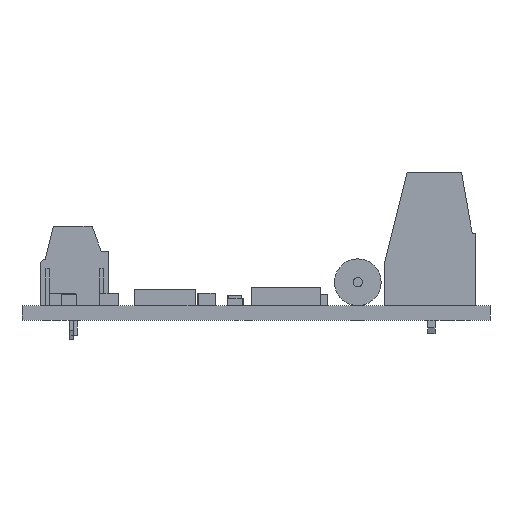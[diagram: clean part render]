
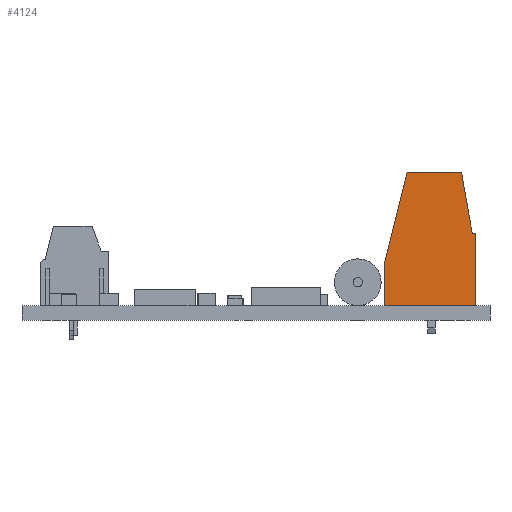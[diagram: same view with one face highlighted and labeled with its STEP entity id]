
A CAD part, front view. The second image highlights one B-rep face of the part: STEP entity #4124.
In plain terms, the highlighted planar face has unit normal (0, -1, 0) as drawn and (-1, 0, 0) by its records, which use the part's own axes.
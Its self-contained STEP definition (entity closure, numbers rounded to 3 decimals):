
#4124 = ADVANCED_FACE('',(#4125),#4139,.F.);
#4125 = FACE_BOUND('',#4126,.F.);
#4126 = EDGE_LOOP('',(#4127,#4162,#4190,#4218,#4246,#4274,#4302));
#4127 = ORIENTED_EDGE('',*,*,#4128,.T.);
#4128 = EDGE_CURVE('',#4129,#4131,#4133,.T.);
#4129 = VERTEX_POINT('',#4130);
#4130 = CARTESIAN_POINT('',(-5.004,0.,4.064));
#4131 = VERTEX_POINT('',#4132);
#4132 = CARTESIAN_POINT('',(-5.004,0.,4.445));
#4133 = SURFACE_CURVE('',#4134,(#4138,#4150),.PCURVE_S1.);
#4134 = LINE('',#4135,#4136);
#4135 = CARTESIAN_POINT('',(-5.004,0.,4.064));
#4136 = VECTOR('',#4137,1.);
#4137 = DIRECTION('',(0.,0.,1.));
#4138 = PCURVE('',#4139,#4144);
#4139 = PLANE('',#4140);
#4140 = AXIS2_PLACEMENT_3D('',#4141,#4142,#4143);
#4141 = CARTESIAN_POINT('',(-5.004,0.,0.));
#4142 = DIRECTION('',(1.,0.,0.));
#4143 = DIRECTION('',(0.,0.,-1.));
#4144 = DEFINITIONAL_REPRESENTATION('',(#4145),#4149);
#4145 = LINE('',#4146,#4147);
#4146 = CARTESIAN_POINT('',(-4.064,0.));
#4147 = VECTOR('',#4148,1.);
#4148 = DIRECTION('',(-1.,0.));
#4149 = ( GEOMETRIC_REPRESENTATION_CONTEXT(2) 
PARAMETRIC_REPRESENTATION_CONTEXT() REPRESENTATION_CONTEXT('2D SPACE',''
  ) );
#4150 = PCURVE('',#4151,#4156);
#4151 = PLANE('',#4152);
#4152 = AXIS2_PLACEMENT_3D('',#4153,#4154,#4155);
#4153 = CARTESIAN_POINT('',(-5.004,0.,4.064));
#4154 = DIRECTION('',(0.,1.,0.));
#4155 = DIRECTION('',(0.,0.,1.));
#4156 = DEFINITIONAL_REPRESENTATION('',(#4157),#4161);
#4157 = LINE('',#4158,#4159);
#4158 = CARTESIAN_POINT('',(0.,0.));
#4159 = VECTOR('',#4160,1.);
#4160 = DIRECTION('',(1.,0.));
#4161 = ( GEOMETRIC_REPRESENTATION_CONTEXT(2) 
PARAMETRIC_REPRESENTATION_CONTEXT() REPRESENTATION_CONTEXT('2D SPACE',''
  ) );
#4162 = ORIENTED_EDGE('',*,*,#4163,.T.);
#4163 = EDGE_CURVE('',#4131,#4164,#4166,.T.);
#4164 = VERTEX_POINT('',#4165);
#4165 = CARTESIAN_POINT('',(-5.004,-7.874,4.445));
#4166 = SURFACE_CURVE('',#4167,(#4171,#4178),.PCURVE_S1.);
#4167 = LINE('',#4168,#4169);
#4168 = CARTESIAN_POINT('',(-5.004,0.,4.445));
#4169 = VECTOR('',#4170,1.);
#4170 = DIRECTION('',(0.,-1.,0.));
#4171 = PCURVE('',#4139,#4172);
#4172 = DEFINITIONAL_REPRESENTATION('',(#4173),#4177);
#4173 = LINE('',#4174,#4175);
#4174 = CARTESIAN_POINT('',(-4.445,0.));
#4175 = VECTOR('',#4176,1.);
#4176 = DIRECTION('',(0.,-1.));
#4177 = ( GEOMETRIC_REPRESENTATION_CONTEXT(2) 
PARAMETRIC_REPRESENTATION_CONTEXT() REPRESENTATION_CONTEXT('2D SPACE',''
  ) );
#4178 = PCURVE('',#4179,#4184);
#4179 = PLANE('',#4180);
#4180 = AXIS2_PLACEMENT_3D('',#4181,#4182,#4183);
#4181 = CARTESIAN_POINT('',(-5.004,0.,4.445));
#4182 = DIRECTION('',(0.,0.,1.));
#4183 = DIRECTION('',(0.,-1.,0.));
#4184 = DEFINITIONAL_REPRESENTATION('',(#4185),#4189);
#4185 = LINE('',#4186,#4187);
#4186 = CARTESIAN_POINT('',(0.,0.));
#4187 = VECTOR('',#4188,1.);
#4188 = DIRECTION('',(1.,0.));
#4189 = ( GEOMETRIC_REPRESENTATION_CONTEXT(2) 
PARAMETRIC_REPRESENTATION_CONTEXT() REPRESENTATION_CONTEXT('2D SPACE',''
  ) );
#4190 = ORIENTED_EDGE('',*,*,#4191,.T.);
#4191 = EDGE_CURVE('',#4164,#4192,#4194,.T.);
#4192 = VERTEX_POINT('',#4193);
#4193 = CARTESIAN_POINT('',(-5.004,-7.874,-5.461));
#4194 = SURFACE_CURVE('',#4195,(#4199,#4206),.PCURVE_S1.);
#4195 = LINE('',#4196,#4197);
#4196 = CARTESIAN_POINT('',(-5.004,-7.874,4.445));
#4197 = VECTOR('',#4198,1.);
#4198 = DIRECTION('',(0.,0.,-1.));
#4199 = PCURVE('',#4139,#4200);
#4200 = DEFINITIONAL_REPRESENTATION('',(#4201),#4205);
#4201 = LINE('',#4202,#4203);
#4202 = CARTESIAN_POINT('',(-4.445,-7.874));
#4203 = VECTOR('',#4204,1.);
#4204 = DIRECTION('',(1.,0.));
#4205 = ( GEOMETRIC_REPRESENTATION_CONTEXT(2) 
PARAMETRIC_REPRESENTATION_CONTEXT() REPRESENTATION_CONTEXT('2D SPACE',''
  ) );
#4206 = PCURVE('',#4207,#4212);
#4207 = PLANE('',#4208);
#4208 = AXIS2_PLACEMENT_3D('',#4209,#4210,#4211);
#4209 = CARTESIAN_POINT('',(-5.004,-7.874,4.445));
#4210 = DIRECTION('',(0.,-1.,0.));
#4211 = DIRECTION('',(0.,0.,-1.));
#4212 = DEFINITIONAL_REPRESENTATION('',(#4213),#4217);
#4213 = LINE('',#4214,#4215);
#4214 = CARTESIAN_POINT('',(0.,0.));
#4215 = VECTOR('',#4216,1.);
#4216 = DIRECTION('',(1.,0.));
#4217 = ( GEOMETRIC_REPRESENTATION_CONTEXT(2) 
PARAMETRIC_REPRESENTATION_CONTEXT() REPRESENTATION_CONTEXT('2D SPACE',''
  ) );
#4218 = ORIENTED_EDGE('',*,*,#4219,.T.);
#4219 = EDGE_CURVE('',#4192,#4220,#4222,.T.);
#4220 = VERTEX_POINT('',#4221);
#4221 = CARTESIAN_POINT('',(-5.004,-3.302,-5.461));
#4222 = SURFACE_CURVE('',#4223,(#4227,#4234),.PCURVE_S1.);
#4223 = LINE('',#4224,#4225);
#4224 = CARTESIAN_POINT('',(-5.004,-7.874,-5.461));
#4225 = VECTOR('',#4226,1.);
#4226 = DIRECTION('',(0.,1.,0.));
#4227 = PCURVE('',#4139,#4228);
#4228 = DEFINITIONAL_REPRESENTATION('',(#4229),#4233);
#4229 = LINE('',#4230,#4231);
#4230 = CARTESIAN_POINT('',(5.461,-7.874));
#4231 = VECTOR('',#4232,1.);
#4232 = DIRECTION('',(0.,1.));
#4233 = ( GEOMETRIC_REPRESENTATION_CONTEXT(2) 
PARAMETRIC_REPRESENTATION_CONTEXT() REPRESENTATION_CONTEXT('2D SPACE',''
  ) );
#4234 = PCURVE('',#4235,#4240);
#4235 = PLANE('',#4236);
#4236 = AXIS2_PLACEMENT_3D('',#4237,#4238,#4239);
#4237 = CARTESIAN_POINT('',(-5.004,-7.874,-5.461));
#4238 = DIRECTION('',(0.,0.,-1.));
#4239 = DIRECTION('',(0.,1.,0.));
#4240 = DEFINITIONAL_REPRESENTATION('',(#4241),#4245);
#4241 = LINE('',#4242,#4243);
#4242 = CARTESIAN_POINT('',(0.,0.));
#4243 = VECTOR('',#4244,1.);
#4244 = DIRECTION('',(1.,0.));
#4245 = ( GEOMETRIC_REPRESENTATION_CONTEXT(2) 
PARAMETRIC_REPRESENTATION_CONTEXT() REPRESENTATION_CONTEXT('2D SPACE',''
  ) );
#4246 = ORIENTED_EDGE('',*,*,#4247,.T.);
#4247 = EDGE_CURVE('',#4220,#4248,#4250,.T.);
#4248 = VERTEX_POINT('',#4249);
#4249 = CARTESIAN_POINT('',(-5.004,6.604,-2.991));
#4250 = SURFACE_CURVE('',#4251,(#4255,#4262),.PCURVE_S1.);
#4251 = LINE('',#4252,#4253);
#4252 = CARTESIAN_POINT('',(-5.004,-3.302,-5.461));
#4253 = VECTOR('',#4254,1.);
#4254 = DIRECTION('',(0.,0.97,0.242));
#4255 = PCURVE('',#4139,#4256);
#4256 = DEFINITIONAL_REPRESENTATION('',(#4257),#4261);
#4257 = LINE('',#4258,#4259);
#4258 = CARTESIAN_POINT('',(5.461,-3.302));
#4259 = VECTOR('',#4260,1.);
#4260 = DIRECTION('',(-0.242,0.97));
#4261 = ( GEOMETRIC_REPRESENTATION_CONTEXT(2) 
PARAMETRIC_REPRESENTATION_CONTEXT() REPRESENTATION_CONTEXT('2D SPACE',''
  ) );
#4262 = PCURVE('',#4263,#4268);
#4263 = PLANE('',#4264);
#4264 = AXIS2_PLACEMENT_3D('',#4265,#4266,#4267);
#4265 = CARTESIAN_POINT('',(-5.004,-3.302,-5.461));
#4266 = DIRECTION('',(0.,0.242,-0.97));
#4267 = DIRECTION('',(0.,0.97,0.242));
#4268 = DEFINITIONAL_REPRESENTATION('',(#4269),#4273);
#4269 = LINE('',#4270,#4271);
#4270 = CARTESIAN_POINT('',(0.,0.));
#4271 = VECTOR('',#4272,1.);
#4272 = DIRECTION('',(1.,0.));
#4273 = ( GEOMETRIC_REPRESENTATION_CONTEXT(2) 
PARAMETRIC_REPRESENTATION_CONTEXT() REPRESENTATION_CONTEXT('2D SPACE',''
  ) );
#4274 = ORIENTED_EDGE('',*,*,#4275,.T.);
#4275 = EDGE_CURVE('',#4248,#4276,#4278,.T.);
#4276 = VERTEX_POINT('',#4277);
#4277 = CARTESIAN_POINT('',(-5.004,6.604,2.9));
#4278 = SURFACE_CURVE('',#4279,(#4283,#4290),.PCURVE_S1.);
#4279 = LINE('',#4280,#4281);
#4280 = CARTESIAN_POINT('',(-5.004,6.604,-2.991));
#4281 = VECTOR('',#4282,1.);
#4282 = DIRECTION('',(0.,0.,1.));
#4283 = PCURVE('',#4139,#4284);
#4284 = DEFINITIONAL_REPRESENTATION('',(#4285),#4289);
#4285 = LINE('',#4286,#4287);
#4286 = CARTESIAN_POINT('',(2.991,6.604));
#4287 = VECTOR('',#4288,1.);
#4288 = DIRECTION('',(-1.,0.));
#4289 = ( GEOMETRIC_REPRESENTATION_CONTEXT(2) 
PARAMETRIC_REPRESENTATION_CONTEXT() REPRESENTATION_CONTEXT('2D SPACE',''
  ) );
#4290 = PCURVE('',#4291,#4296);
#4291 = PLANE('',#4292);
#4292 = AXIS2_PLACEMENT_3D('',#4293,#4294,#4295);
#4293 = CARTESIAN_POINT('',(-5.004,6.604,-2.991));
#4294 = DIRECTION('',(0.,1.,0.));
#4295 = DIRECTION('',(0.,0.,1.));
#4296 = DEFINITIONAL_REPRESENTATION('',(#4297),#4301);
#4297 = LINE('',#4298,#4299);
#4298 = CARTESIAN_POINT('',(0.,0.));
#4299 = VECTOR('',#4300,1.);
#4300 = DIRECTION('',(1.,0.));
#4301 = ( GEOMETRIC_REPRESENTATION_CONTEXT(2) 
PARAMETRIC_REPRESENTATION_CONTEXT() REPRESENTATION_CONTEXT('2D SPACE',''
  ) );
#4302 = ORIENTED_EDGE('',*,*,#4303,.T.);
#4303 = EDGE_CURVE('',#4276,#4129,#4304,.T.);
#4304 = SURFACE_CURVE('',#4305,(#4309,#4316),.PCURVE_S1.);
#4305 = LINE('',#4306,#4307);
#4306 = CARTESIAN_POINT('',(-5.004,6.604,2.9));
#4307 = VECTOR('',#4308,1.);
#4308 = DIRECTION('',(0.,-0.985,0.174));
#4309 = PCURVE('',#4139,#4310);
#4310 = DEFINITIONAL_REPRESENTATION('',(#4311),#4315);
#4311 = LINE('',#4312,#4313);
#4312 = CARTESIAN_POINT('',(-2.9,6.604));
#4313 = VECTOR('',#4314,1.);
#4314 = DIRECTION('',(-0.174,-0.985));
#4315 = ( GEOMETRIC_REPRESENTATION_CONTEXT(2) 
PARAMETRIC_REPRESENTATION_CONTEXT() REPRESENTATION_CONTEXT('2D SPACE',''
  ) );
#4316 = PCURVE('',#4317,#4322);
#4317 = PLANE('',#4318);
#4318 = AXIS2_PLACEMENT_3D('',#4319,#4320,#4321);
#4319 = CARTESIAN_POINT('',(-5.004,6.604,2.9));
#4320 = DIRECTION('',(0.,0.174,0.985));
#4321 = DIRECTION('',(0.,-0.985,0.174));
#4322 = DEFINITIONAL_REPRESENTATION('',(#4323),#4327);
#4323 = LINE('',#4324,#4325);
#4324 = CARTESIAN_POINT('',(0.,0.));
#4325 = VECTOR('',#4326,1.);
#4326 = DIRECTION('',(1.,0.));
#4327 = ( GEOMETRIC_REPRESENTATION_CONTEXT(2) 
PARAMETRIC_REPRESENTATION_CONTEXT() REPRESENTATION_CONTEXT('2D SPACE',''
  ) );
